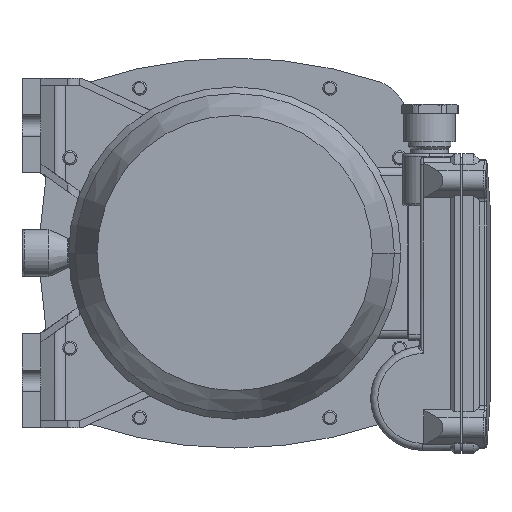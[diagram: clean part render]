
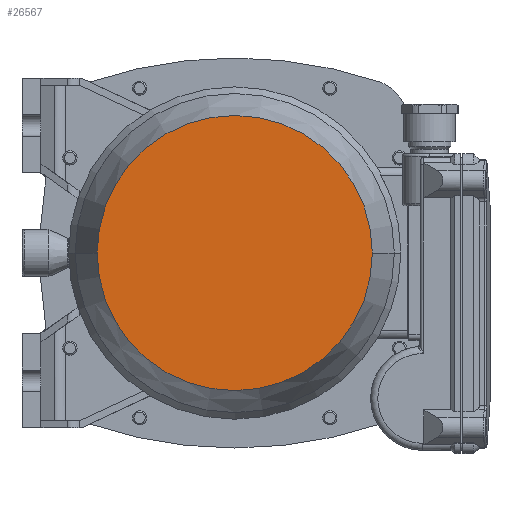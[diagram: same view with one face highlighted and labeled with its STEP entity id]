
A CAD part, front view. The second image highlights one B-rep face of the part: STEP entity #26567.
In plain terms, the highlighted planar face has unit normal (0, -1, 0) as drawn and (1, 0, 0) by its records, which use the part's own axes.
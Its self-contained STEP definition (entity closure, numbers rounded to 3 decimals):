
#20471=CARTESIAN_POINT('',(181.,0.,0.));
#20472=DIRECTION('',(-1.,0.,0.));
#20473=DIRECTION('',(0.,1.,0.));
#20474=AXIS2_PLACEMENT_3D('',#20471,#20472,#20473);
#20479=CARTESIAN_POINT('',(181.,0.,0.));
#20480=DIRECTION('',(-1.,0.,0.));
#20481=DIRECTION('',(0.,-1.,0.));
#20482=AXIS2_PLACEMENT_3D('',#20479,#20480,#20481);
#21558=CARTESIAN_POINT('',(181.,58.207,0.));
#21559=VERTEX_POINT('',#21558);
#21560=CARTESIAN_POINT('',(181.,-58.207,0.));
#21561=VERTEX_POINT('',#21560);
#26558=CARTESIAN_POINT('',(181.,0.,0.));
#26559=DIRECTION('',(1.,0.,0.));
#26560=DIRECTION('',(0.,-1.,0.));
#26561=AXIS2_PLACEMENT_3D('',#26558,#26559,#26560);
#26562=PLANE('',#26561);
#26563=ORIENTED_EDGE('',*,*,#26540,.T.);
#26564=ORIENTED_EDGE('',*,*,#26551,.T.);
#26565=EDGE_LOOP('',(#26563,#26564));
#26566=FACE_OUTER_BOUND('',#26565,.F.);
#20475=CIRCLE('',#20474,58.207);
#20483=CIRCLE('',#20482,58.207);
#26540=EDGE_CURVE('',#21559,#21561,#20475,.T.);
#26551=EDGE_CURVE('',#21561,#21559,#20483,.T.);
#26567=ADVANCED_FACE('',(#26566),#26562,.T.);
